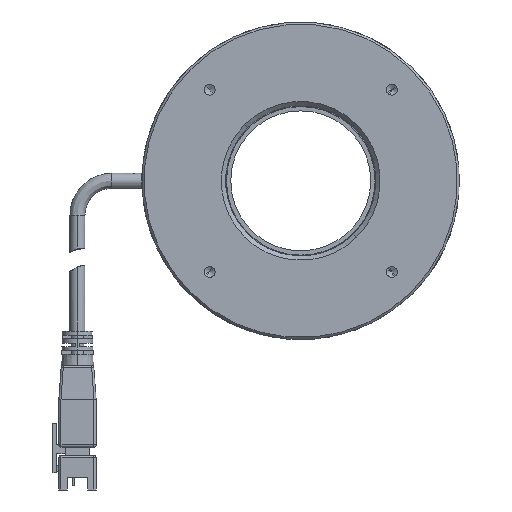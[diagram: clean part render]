
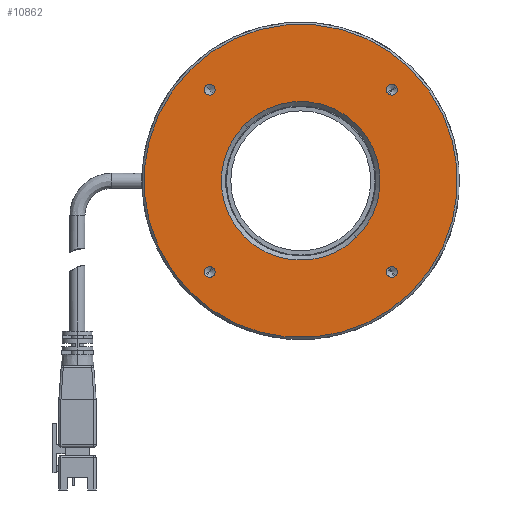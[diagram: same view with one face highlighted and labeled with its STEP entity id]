
A CAD part, front view. The second image highlights one B-rep face of the part: STEP entity #10862.
In plain terms, the highlighted planar face has unit normal (0, -1, 0).
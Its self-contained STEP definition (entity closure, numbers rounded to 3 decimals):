
#228 = DIRECTION ( 'NONE',  ( 1., 0., 0. ) ) ;
#286 = DIRECTION ( 'NONE',  ( 0., 0., -1. ) ) ;
#389 = ORIENTED_EDGE ( 'NONE', *, *, #11253, .F. ) ;
#648 = DIRECTION ( 'NONE',  ( 0., 0., -1. ) ) ;
#715 = AXIS2_PLACEMENT_3D ( 'NONE', #1350, #5183, #228 ) ;
#831 = ORIENTED_EDGE ( 'NONE', *, *, #4789, .F. ) ;
#832 = AXIS2_PLACEMENT_3D ( 'NONE', #7468, #7668, #648 ) ;
#846 = EDGE_CURVE ( 'NONE', #8340, #6301, #4720, .T. ) ;
#861 = VERTEX_POINT ( 'NONE', #950 ) ;
#914 = CARTESIAN_POINT ( 'NONE',  ( 0., 0., 0. ) ) ;
#950 = CARTESIAN_POINT ( 'NONE',  ( 31.25, 0., 0. ) ) ;
#985 = CARTESIAN_POINT ( 'NONE',  ( -28.75, 0., 0. ) ) ;
#1350 = CARTESIAN_POINT ( 'NONE',  ( -30., 0., 0. ) ) ;
#1483 = VERTEX_POINT ( 'NONE', #2544 ) ;
#1489 = DIRECTION ( 'NONE',  ( -1., 0., 0. ) ) ;
#1618 = ORIENTED_EDGE ( 'NONE', *, *, #12639, .F. ) ;
#1620 = CARTESIAN_POINT ( 'NONE',  ( 30., 0., 0. ) ) ;
#1853 = PLANE ( 'NONE',  #3349 ) ;
#2083 = CIRCLE ( 'NONE', #3781, 1.25 ) ;
#2224 = CARTESIAN_POINT ( 'NONE',  ( 0., 0., -18.5 ) ) ;
#2265 = CARTESIAN_POINT ( 'NONE',  ( -30., 0., 0. ) ) ;
#2276 = EDGE_CURVE ( 'NONE', #1483, #12013, #7123, .T. ) ;
#2361 = ORIENTED_EDGE ( 'NONE', *, *, #9634, .T. ) ;
#2385 = AXIS2_PLACEMENT_3D ( 'NONE', #4962, #6955, #5024 ) ;
#2424 = VERTEX_POINT ( 'NONE', #8338 ) ;
#2544 = CARTESIAN_POINT ( 'NONE',  ( 0., 0., 28.75 ) ) ;
#2682 = CARTESIAN_POINT ( 'NONE',  ( 30., 0., 0. ) ) ;
#2741 = AXIS2_PLACEMENT_3D ( 'NONE', #914, #8002, #10035 ) ;
#3038 = CARTESIAN_POINT ( 'NONE',  ( 0., 0., 0. ) ) ;
#3108 = ORIENTED_EDGE ( 'NONE', *, *, #11822, .F. ) ;
#3182 = CARTESIAN_POINT ( 'NONE',  ( 0., 0., -36.5 ) ) ;
#3349 = AXIS2_PLACEMENT_3D ( 'NONE', #9408, #8288, #286 ) ;
#3413 = CARTESIAN_POINT ( 'NONE',  ( 0., 0., 36.5 ) ) ;
#3781 = AXIS2_PLACEMENT_3D ( 'NONE', #3810, #7864, #4873 ) ;
#3810 = CARTESIAN_POINT ( 'NONE',  ( 0., 0., -30. ) ) ;
#3854 = AXIS2_PLACEMENT_3D ( 'NONE', #3935, #5794, #8838 ) ;
#3935 = CARTESIAN_POINT ( 'NONE',  ( 0., 0., 0. ) ) ;
#4063 = CIRCLE ( 'NONE', #3854, 18.5 ) ;
#4487 = VERTEX_POINT ( 'NONE', #4598 ) ;
#4598 = CARTESIAN_POINT ( 'NONE',  ( 0., 0., -28.75 ) ) ;
#4654 = EDGE_LOOP ( 'NONE', ( #831, #10529 ) ) ;
#4720 = CIRCLE ( 'NONE', #12332, 36.5 ) ;
#4723 = CIRCLE ( 'NONE', #2385, 36.5 ) ;
#4789 = EDGE_CURVE ( 'NONE', #11365, #6244, #10010, .T. ) ;
#4867 = CARTESIAN_POINT ( 'NONE',  ( 0., 0., 18.5 ) ) ;
#4873 = DIRECTION ( 'NONE',  ( 0., 0., 1. ) ) ;
#4910 = DIRECTION ( 'NONE',  ( 0., -1., 0. ) ) ;
#4962 = CARTESIAN_POINT ( 'NONE',  ( 0., 0., 0. ) ) ;
#5024 = DIRECTION ( 'NONE',  ( 0., 0., 1. ) ) ;
#5183 = DIRECTION ( 'NONE',  ( 0., -1., 0. ) ) ;
#5505 = EDGE_LOOP ( 'NONE', ( #3108, #5677 ) ) ;
#5651 = VERTEX_POINT ( 'NONE', #4867 ) ;
#5677 = ORIENTED_EDGE ( 'NONE', *, *, #8705, .F. ) ;
#5794 = DIRECTION ( 'NONE',  ( 0., 1., 0. ) ) ;
#5979 = CIRCLE ( 'NONE', #6632, 1.25 ) ;
#6121 = DIRECTION ( 'NONE',  ( 1., 0., 0. ) ) ;
#6244 = VERTEX_POINT ( 'NONE', #8347 ) ;
#6288 = ORIENTED_EDGE ( 'NONE', *, *, #2276, .F. ) ;
#6301 = VERTEX_POINT ( 'NONE', #3182 ) ;
#6326 = CIRCLE ( 'NONE', #10754, 1.25 ) ;
#6425 = ORIENTED_EDGE ( 'NONE', *, *, #12819, .T. ) ;
#6488 = EDGE_LOOP ( 'NONE', ( #6288, #389 ) ) ;
#6528 = CIRCLE ( 'NONE', #832, 1.25 ) ;
#6613 = EDGE_LOOP ( 'NONE', ( #2361, #6425 ) ) ;
#6632 = AXIS2_PLACEMENT_3D ( 'NONE', #9751, #6727, #12945 ) ;
#6727 = DIRECTION ( 'NONE',  ( 0., -1., 0. ) ) ;
#6736 = DIRECTION ( 'NONE',  ( 0., -1., 0. ) ) ;
#6756 = FACE_BOUND ( 'NONE', #6613, .T. ) ;
#6955 = DIRECTION ( 'NONE',  ( 0., 1., 0. ) ) ;
#6994 = AXIS2_PLACEMENT_3D ( 'NONE', #1620, #11605, #1489 ) ;
#7123 = CIRCLE ( 'NONE', #11337, 1.25 ) ;
#7468 = CARTESIAN_POINT ( 'NONE',  ( 0., 0., 30. ) ) ;
#7574 = CARTESIAN_POINT ( 'NONE',  ( 0., 0., -31.25 ) ) ;
#7668 = DIRECTION ( 'NONE',  ( 0., -1., 0. ) ) ;
#7733 = DIRECTION ( 'NONE',  ( -1., 0., 0. ) ) ;
#7820 = FACE_BOUND ( 'NONE', #4654, .T. ) ;
#7845 = CIRCLE ( 'NONE', #6994, 1.25 ) ;
#7864 = DIRECTION ( 'NONE',  ( 0., -1., 0. ) ) ;
#8002 = DIRECTION ( 'NONE',  ( 0., 1., 0. ) ) ;
#8109 = DIRECTION ( 'NONE',  ( 0., -1., 0. ) ) ;
#8288 = DIRECTION ( 'NONE',  ( 0., -1., 0. ) ) ;
#8338 = CARTESIAN_POINT ( 'NONE',  ( 28.75, 0., 0. ) ) ;
#8340 = VERTEX_POINT ( 'NONE', #3413 ) ;
#8347 = CARTESIAN_POINT ( 'NONE',  ( -31.25, 0., 0. ) ) ;
#8404 = EDGE_CURVE ( 'NONE', #861, #2424, #6326, .T. ) ;
#8446 = CIRCLE ( 'NONE', #2741, 18.5 ) ;
#8556 = CARTESIAN_POINT ( 'NONE',  ( 0., 0., 31.25 ) ) ;
#8705 = EDGE_CURVE ( 'NONE', #12034, #4487, #2083, .T. ) ;
#8838 = DIRECTION ( 'NONE',  ( 0., 0., 1. ) ) ;
#9115 = EDGE_LOOP ( 'NONE', ( #10473, #9936 ) ) ;
#9408 = CARTESIAN_POINT ( 'NONE',  ( 0., 0., 0. ) ) ;
#9634 = EDGE_CURVE ( 'NONE', #11103, #5651, #8446, .T. ) ;
#9751 = CARTESIAN_POINT ( 'NONE',  ( 0., 0., -30. ) ) ;
#9765 = CIRCLE ( 'NONE', #10189, 1.25 ) ;
#9936 = ORIENTED_EDGE ( 'NONE', *, *, #8404, .F. ) ;
#9945 = EDGE_CURVE ( 'NONE', #2424, #861, #7845, .T. ) ;
#10010 = CIRCLE ( 'NONE', #715, 1.25 ) ;
#10035 = DIRECTION ( 'NONE',  ( 0., 0., 1. ) ) ;
#10189 = AXIS2_PLACEMENT_3D ( 'NONE', #2265, #8109, #6121 ) ;
#10467 = ORIENTED_EDGE ( 'NONE', *, *, #846, .F. ) ;
#10473 = ORIENTED_EDGE ( 'NONE', *, *, #9945, .F. ) ;
#10529 = ORIENTED_EDGE ( 'NONE', *, *, #13071, .F. ) ;
#10754 = AXIS2_PLACEMENT_3D ( 'NONE', #2682, #6736, #7733 ) ;
#10777 = FACE_OUTER_BOUND ( 'NONE', #11944, .T. ) ;
#10862 = ADVANCED_FACE ( 'NONE', ( #12842, #10907, #7820, #11774, #6756, #10777 ), #1853, .T. ) ;
#10907 = FACE_BOUND ( 'NONE', #5505, .T. ) ;
#10927 = DIRECTION ( 'NONE',  ( 0., 0., -1. ) ) ;
#11103 = VERTEX_POINT ( 'NONE', #2224 ) ;
#11253 = EDGE_CURVE ( 'NONE', #12013, #1483, #6528, .T. ) ;
#11337 = AXIS2_PLACEMENT_3D ( 'NONE', #11933, #4910, #10927 ) ;
#11365 = VERTEX_POINT ( 'NONE', #985 ) ;
#11605 = DIRECTION ( 'NONE',  ( 0., -1., 0. ) ) ;
#11774 = FACE_BOUND ( 'NONE', #6488, .T. ) ;
#11822 = EDGE_CURVE ( 'NONE', #4487, #12034, #5979, .T. ) ;
#11933 = CARTESIAN_POINT ( 'NONE',  ( 0., 0., 30. ) ) ;
#11944 = EDGE_LOOP ( 'NONE', ( #10467, #1618 ) ) ;
#12013 = VERTEX_POINT ( 'NONE', #8556 ) ;
#12034 = VERTEX_POINT ( 'NONE', #7574 ) ;
#12051 = DIRECTION ( 'NONE',  ( 0., 1., 0. ) ) ;
#12332 = AXIS2_PLACEMENT_3D ( 'NONE', #3038, #12051, #12923 ) ;
#12639 = EDGE_CURVE ( 'NONE', #6301, #8340, #4723, .T. ) ;
#12819 = EDGE_CURVE ( 'NONE', #5651, #11103, #4063, .T. ) ;
#12842 = FACE_BOUND ( 'NONE', #9115, .T. ) ;
#12923 = DIRECTION ( 'NONE',  ( 0., 0., 1. ) ) ;
#12945 = DIRECTION ( 'NONE',  ( 0., 0., 1. ) ) ;
#13071 = EDGE_CURVE ( 'NONE', #6244, #11365, #9765, .T. ) ;
